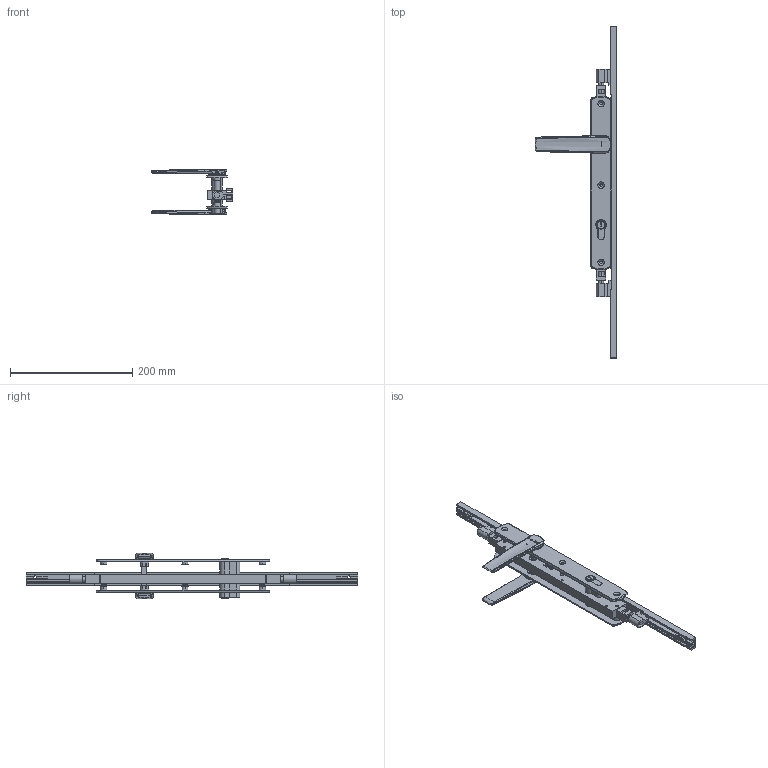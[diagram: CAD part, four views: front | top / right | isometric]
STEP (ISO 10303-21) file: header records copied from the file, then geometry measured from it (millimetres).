
FILE_DESCRIPTION (( 'STEP AP214' ), '1' );
FILE_NAME ('TPL-W-APC-616-U 28Oct2024.STEP', '2024-10-28T04:00:43', ( '' ), ( '' ), 'SwSTEP 2.0', 'SolidWorks 2023', '' );
FILE_SCHEMA (( 'AUTOMOTIVE_DESIGN' ));
Length unit declared in the file: millimetre
Products named in the file (24): Copy of LKC-514 Escutcheon plate keyed external 285mm long zinc - simplified^Copy (2) of TPGen2 handle keyed external zinc - simplified_TPL-W-APC-116 18Oct2024; Copy of LKC-585 Rotator body zinc^Copy (2) of TPGen2 handle keyed internal zinc - simplified_TPL-W-APC-116 18Oct2024; Copy of COV-115-B Cover B suit TPLGen2 standard range AU with hinge holes^TPL-W-APC-116 18Oct2024_2870mm; Adapter C - simplfied^TPL-W-APC-116 18Oct2024; Copy of TPLGen2 push rod - simplified^Copy of TPLGen2 lock body keyed assembly_TPL-W-APC-116 18Oct2024_Female thread M10; Copy of LKC-586 Spindle square 8mm with M4 hole^Copy (2) of TPGen2 handle keyed internal zinc - simplified_TPL-W-APC-116 18Oct2024_42mm; Adapter D - simplfied^TPL-W-APC-116 18Oct2024; Copy of LKC-585 Rotator body zinc^Copy (2) of TPGen2 handle keyed external zinc - simplified_TPL-W-APC-116 18Oct2024; Copy of TPLGen2 lock body keyed assembly^TPL-W-APC-116 18Oct2024_Bolts retracted; Copy of LKC-505 Swing handle zinc - simplified^Copy (2) of TPGen2 handle keyed internal zinc - simplified_TPL-W-APC-116 18Oct2024; Copy of TPL-021 Lock cylinder double key C4 5 pin 62 (30-32)mm^TPL-W-APC-116 18Oct2024_Right; TPL-W-APC-616-U 28Oct2024; Bolt.step; Copy of Copy of LKC-531 Lock twinpoint transmission rod wood system^TPL-W-APC-116 18Oct2024_Standard Range 2891.7mm; Copy of TPLGen2 lock body keyed^Copy of TPLGen2 lock body keyed assembly_TPL-W-APC-116 18Oct2024; Copy of COV-115-A Cover A suit TPLGen2 standard range AU with hinge holes^TPL-W-APC-116 18Oct2024_1335mm; Copy (2) of TPGen2 handle keyed external zinc - simplified^TPL-W-APC-116 18Oct2024_Right; Copy of LKC-512 Escutcheon plate keyed internal 285mm long zinc - simplified^Copy (2) of TPGen2 handle keyed internal zinc - simplified_TPL-W-APC-116 18Oct2024; Copy (2) of TPGen2 handle keyed internal zinc - simplified^TPL-W-APC-116 18Oct2024_Left; Copy of LKC-584 Pivot body zinc - simplified^Copy (2) of TPGen2 handle keyed external zinc - simplified_TPL-W-APC-116 18Oct2024; Copy of LKC-531 Lock twinpoint transmission rod wood system^TPL-W-APC-116 18Oct2024_Standard Range (588.7mm); Copy of LKC-505 Swing handle zinc - simplified^Copy (2) of TPGen2 handle keyed external zinc - simplified_TPL-W-APC-116 18Oct2024; Copy of LKC-584 Pivot body zinc - simplified^Copy (2) of TPGen2 handle keyed internal zinc - simplified_TPL-W-APC-116 18Oct2024; Copy of COV-115-C Cover C suit TPLGen2 standard range AU^TPL-W-APC-116 18Oct2024
Assembly tree (21 placements, depth 3):
  Copy of COV-115-B Cover B suit TPLGen2 standard range AU with hinge holes^TPL-W-APC-116 18Oct2024_2870mm
  TPL-W-APC-616-U 28Oct2024
    Copy of TPLGen2 lock body keyed assembly^TPL-W-APC-116 18Oct2024_Bolts retracted
      Copy of TPLGen2 lock body keyed^Copy of TPLGen2 lock body keyed assembly_TPL-W-APC-116 18Oct2024
      Copy of TPLGen2 push rod - simplified^Copy of TPLGen2 lock body keyed assembly_TPL-W-APC-116 18Oct2024_Female thread M10  x2
    Copy (2) of TPGen2 handle keyed external zinc - simplified^TPL-W-APC-116 18Oct2024_Right
      Copy of LKC-514 Escutcheon plate keyed external 285mm long zinc - simplified^Copy (2) of TPGen2 handle keyed external zinc - simplified_TPL-W-APC-116 18Oct2024
      Copy of LKC-505 Swing handle zinc - simplified^Copy (2) of TPGen2 handle keyed external zinc - simplified_TPL-W-APC-116 18Oct2024
      Copy of LKC-585 Rotator body zinc^Copy (2) of TPGen2 handle keyed external zinc - simplified_TPL-W-APC-116 18Oct2024
      Copy of LKC-584 Pivot body zinc - simplified^Copy (2) of TPGen2 handle keyed external zinc - simplified_TPL-W-APC-116 18Oct2024
    Copy (2) of TPGen2 handle keyed internal zinc - simplified^TPL-W-APC-116 18Oct2024_Left
      Copy of LKC-512 Escutcheon plate keyed internal 285mm long zinc - simplified^Copy (2) of TPGen2 handle keyed internal zinc - simplified_TPL-W-APC-116 18Oct2024
      Copy of LKC-505 Swing handle zinc - simplified^Copy (2) of TPGen2 handle keyed internal zinc - simplified_TPL-W-APC-116 18Oct2024
      Copy of LKC-585 Rotator body zinc^Copy (2) of TPGen2 handle keyed internal zinc - simplified_TPL-W-APC-116 18Oct2024
      Copy of LKC-586 Spindle square 8mm with M4 hole^Copy (2) of TPGen2 handle keyed internal zinc - simplified_TPL-W-APC-116 18Oct2024_42mm
      Copy of LKC-584 Pivot body zinc - simplified^Copy (2) of TPGen2 handle keyed internal zinc - simplified_TPL-W-APC-116 18Oct2024
    Copy of TPL-021 Lock cylinder double key C4 5 pin 62 (30-32)mm^TPL-W-APC-116 18Oct2024_Right
    Copy of LKC-531 Lock twinpoint transmission rod wood system^TPL-W-APC-116 18Oct2024_Standard Range (588.7mm)
    Copy of Copy of LKC-531 Lock twinpoint transmission rod wood system^TPL-W-APC-116 18Oct2024_Standard Range 2891.7mm
    Copy of COV-115-C Cover C suit TPLGen2 standard range AU^TPL-W-APC-116 18Oct2024
    Adapter C - simplfied^TPL-W-APC-116 18Oct2024
    Adapter D - simplfied^TPL-W-APC-116 18Oct2024
  Bolt.step
  Copy of COV-115-A Cover A suit TPLGen2 standard range AU with hinge holes^TPL-W-APC-116 18Oct2024_1335mm
Bounding box: 134.12 x 544 x 74.92 mm (x, y, z)
Volume: 347772.2 mm3; surface area: 171233.4 mm2
Topology: 18 solids, 18 shells, 1382 faces, 3356 edges, 2052 vertices
Faces by surface type: bspline 417, plane 387, cylinder 332, cone 132, torus 98, sphere 16
Entity records: 52028 total; most frequent: CARTESIAN_POINT 22744, ORIENTED_EDGE 6516, DIRECTION 5280, EDGE_CURVE 3258, AXIS2_PLACEMENT_3D 2048, VERTEX_POINT 1992, EDGE_LOOP 1480, ADVANCED_FACE 1347
